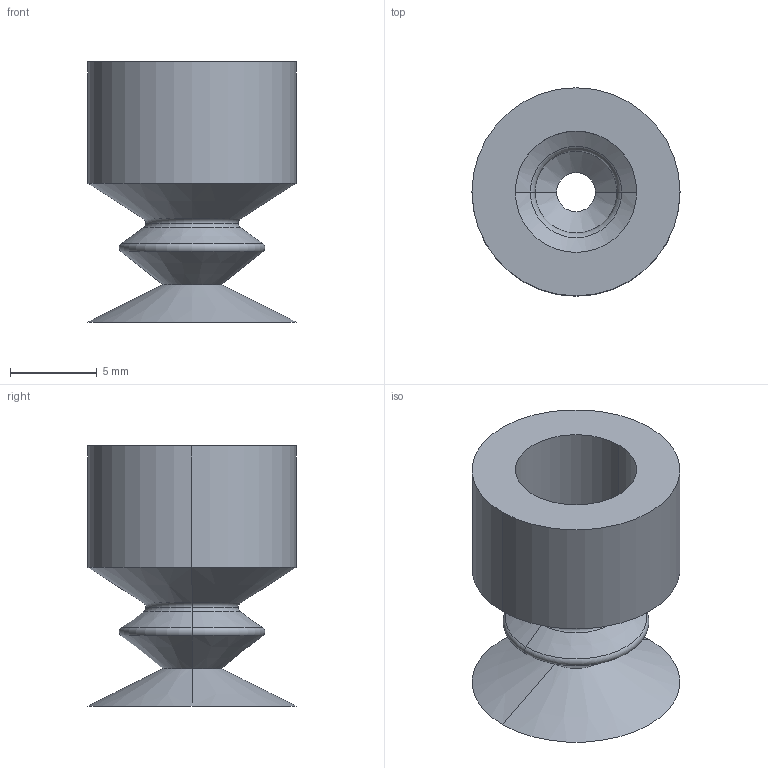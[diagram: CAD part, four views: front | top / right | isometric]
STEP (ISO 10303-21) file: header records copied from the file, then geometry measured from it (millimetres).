
FILE_DESCRIPTION (( 'STEP AP214' ), '1' );
FILE_NAME ('VSH2-S12.STEP', '2019-12-02T05:51:36', ( '微软用户' ), ( '微软中国' ), 'SwSTEP 2.0', 'SolidWorks 2016', '' );
FILE_SCHEMA (( 'AUTOMOTIVE_DESIGN' ));
Length unit declared in the file: millimetre
Products named in the file (1): VSH2-S12
Bounding box: 12 x 12 x 15 mm (x, y, z)
Volume: 489.1 mm3; surface area: 1234.3 mm2
Topology: 1 solids, 1 shells, 35 faces, 70 edges, 38 vertices
Faces by surface type: cone 16, torus 10, cylinder 6, plane 3
Entity records: 942 total; most frequent: DIRECTION 190, CARTESIAN_POINT 144, ORIENTED_EDGE 140, AXIS2_PLACEMENT_3D 84, EDGE_CURVE 70, CIRCLE 48, VERTEX_POINT 38, EDGE_LOOP 38
